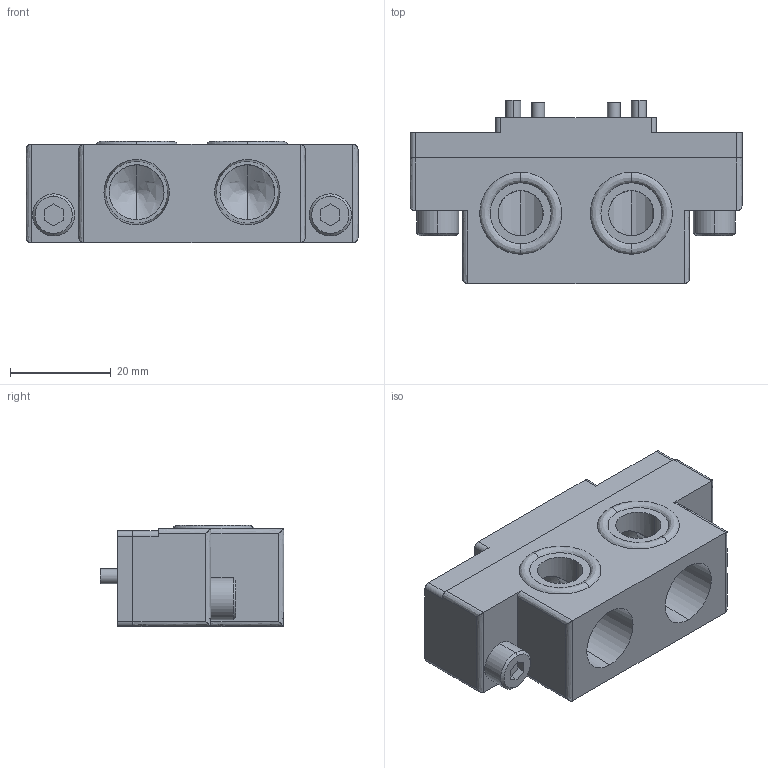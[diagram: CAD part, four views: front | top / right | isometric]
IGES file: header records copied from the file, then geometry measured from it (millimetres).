
Start section: 3D InterOp IGES (v. 2022 1.0.0), Spatial Corp. Copyright (c) 1999-2020.
Global section: file name: KHB-7HS-EP82_ver1.igs; native system: Spatial Corp.; preprocessor: 3D InterOp GENERIC/IGES 3.0; author: Noname; organization: Noname; date: 20260427.112741; units: millimetre
Bounding box: 66 x 36.5 x 20.1 mm (x, y, z)
Surface area: 10838.2 mm2 (no closed solid volume)
Topology: 0 solids, 0 shells, 173 faces, 786 edges, 782 vertices
Faces by surface type: revolution 93, extrusion 80
